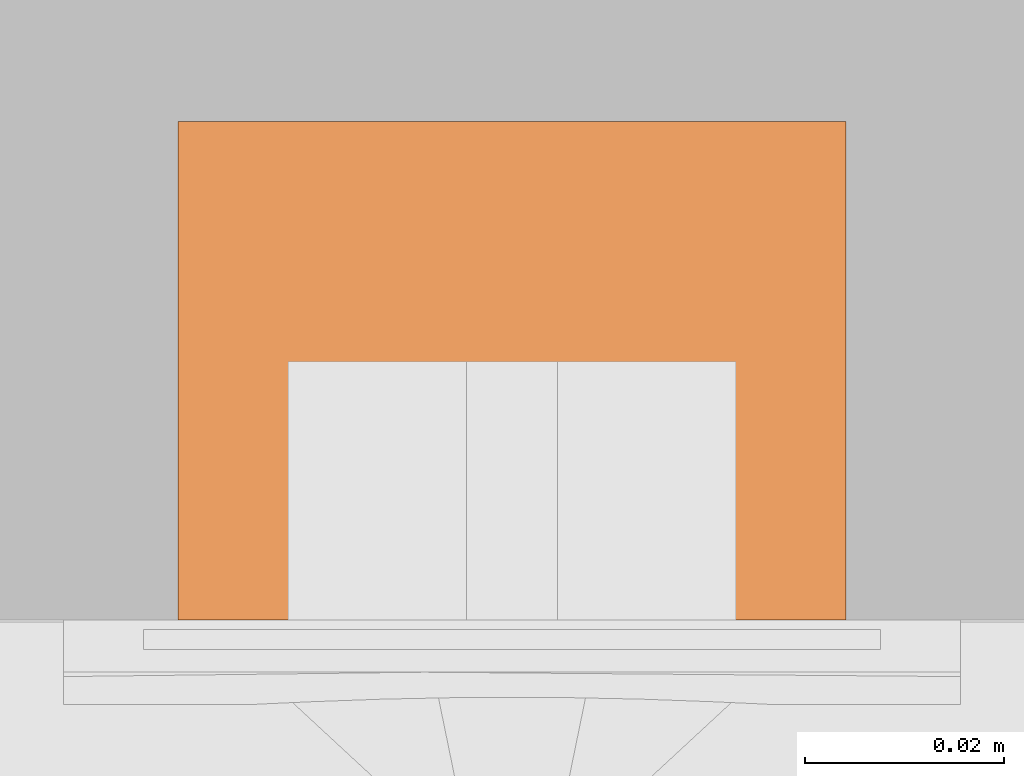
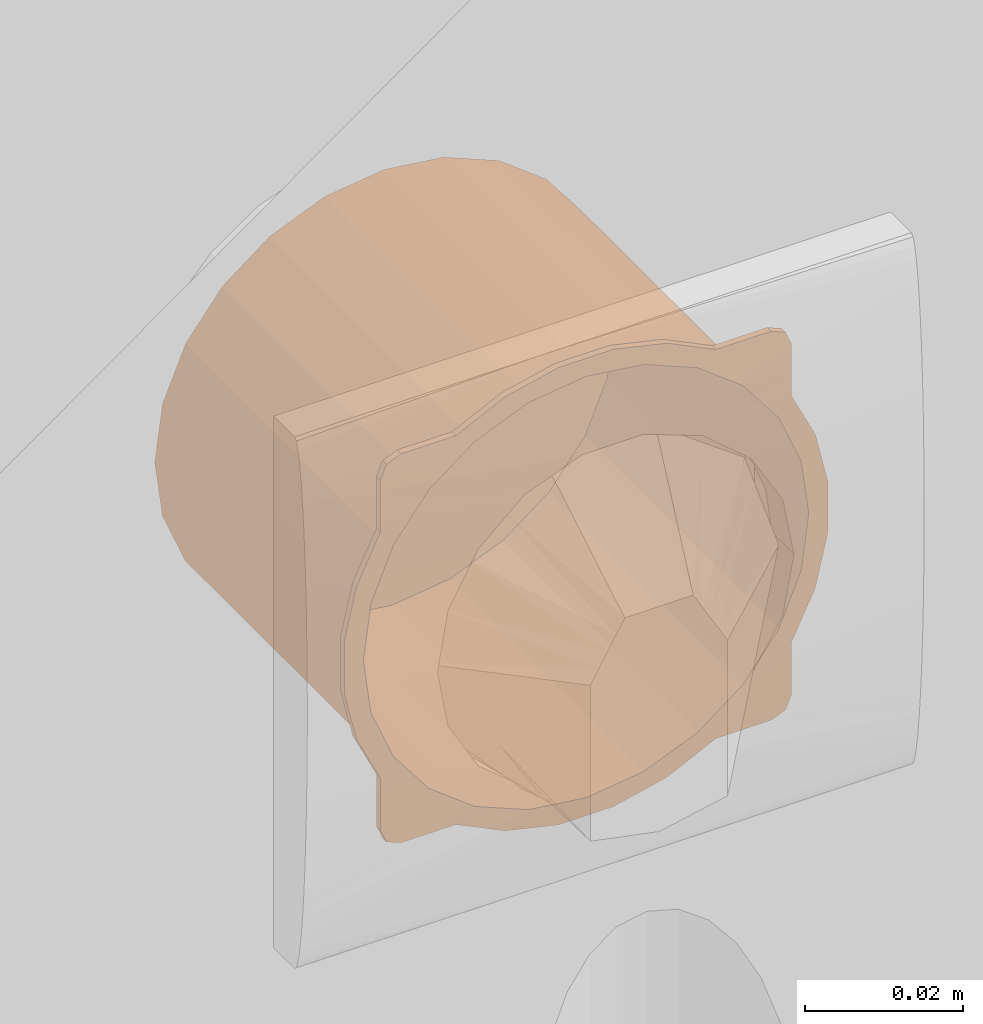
# One storey, part 7 of 8: 1 proxy.
"""IFC2X3 building model written with IfcOpenShell, lengths in metres."""

from ifc_helpers import new_model, entity, si_unit, converted_unit, derived_unit, direction, frame, origin, place, context, subcontext, project, spatial, faceted_brep, source, transform, mapped, material, type_object, type_shapes, element, save


model = new_model("IFC2X3")

# Units and contexts
model_context = context("Model", 3, precision=1e-05, world=origin(), true_north=direction((6.123031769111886e-17, 1.0)))
body_context = subcontext(model_context, "Body", "Model", "MODEL_VIEW")
ifc_project = project(units=[si_unit("LENGTHUNIT", "METRE"), si_unit("AREAUNIT", "SQUARE_METRE"), si_unit("VOLUMEUNIT", "CUBIC_METRE"), converted_unit("PLANEANGLEUNIT", "DEGREE", entity("IfcPlaneAngleMeasure", 0.017453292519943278), si_unit("PLANEANGLEUNIT", "RADIAN"), dimensions=[0, 0, 0, 0, 0, 0, 0]), si_unit("MASSUNIT", "GRAM", prefix="KILO"), derived_unit("MASSDENSITYUNIT", [(si_unit("MASSUNIT", "GRAM", prefix="KILO"), 1), (si_unit("LENGTHUNIT", "METRE"), -3)]), derived_unit("IONCONCENTRATIONUNIT", [(si_unit("MASSUNIT", "GRAM", prefix="KILO"), 1), (si_unit("LENGTHUNIT", "METRE"), -3)]), derived_unit("MOMENTOFINERTIAUNIT", [(si_unit("LENGTHUNIT", "METRE"), 4)]), si_unit("TIMEUNIT", "SECOND"), si_unit("FREQUENCYUNIT", "HERTZ"), si_unit("THERMODYNAMICTEMPERATUREUNIT", "DEGREE_CELSIUS"), derived_unit("THERMALTRANSMITTANCEUNIT", [(si_unit("MASSUNIT", "GRAM", prefix="KILO"), 1), (si_unit("THERMODYNAMICTEMPERATUREUNIT", "KELVIN"), -1), (si_unit("TIMEUNIT", "SECOND"), -3)]), derived_unit("THERMALCONDUCTANCEUNIT", [(si_unit("MASSUNIT", "GRAM", prefix="KILO"), 1), (si_unit("THERMODYNAMICTEMPERATUREUNIT", "KELVIN"), -1), (si_unit("TIMEUNIT", "SECOND"), -3), (si_unit("LENGTHUNIT", "METRE"), 1)]), derived_unit("VOLUMETRICFLOWRATEUNIT", [(si_unit("LENGTHUNIT", "METRE", prefix="DECI"), 3), (si_unit("TIMEUNIT", "SECOND"), -1)]), derived_unit("MASSFLOWRATEUNIT", [(si_unit("MASSUNIT", "GRAM", prefix="KILO"), 1), (si_unit("TIMEUNIT", "SECOND"), -1)]), derived_unit("ROTATIONALFREQUENCYUNIT", [(si_unit("TIMEUNIT", "SECOND"), -1)]), si_unit("ELECTRICCURRENTUNIT", "AMPERE"), si_unit("ELECTRICVOLTAGEUNIT", "VOLT"), si_unit("POWERUNIT", "WATT"), si_unit("FORCEUNIT", "NEWTON", prefix="KILO"), si_unit("ILLUMINANCEUNIT", "LUX"), si_unit("LUMINOUSFLUXUNIT", "LUMEN"), si_unit("LUMINOUSINTENSITYUNIT", "CANDELA"), si_unit("ENERGYUNIT", "JOULE"), derived_unit("USERDEFINED", [(si_unit("MASSUNIT", "GRAM", prefix="KILO"), -1), (si_unit("LENGTHUNIT", "METRE"), -2), (si_unit("TIMEUNIT", "SECOND"), 3), (si_unit("LUMINOUSFLUXUNIT", "LUMEN"), 1)]), derived_unit("USERDEFINED", [(si_unit("MASSUNIT", "GRAM", prefix="KILO"), 1), (si_unit("TIMEUNIT", "SECOND"), -3), (si_unit("LENGTHUNIT", "METRE"), 3), (si_unit("ELECTRICCURRENTUNIT", "AMPERE"), -2)]), derived_unit("SOUNDPOWERUNIT", [(si_unit("MASSUNIT", "GRAM", prefix="KILO"), 1), (si_unit("TIMEUNIT", "SECOND"), -3), (si_unit("LENGTHUNIT", "METRE"), 2)]), derived_unit("SOUNDPRESSUREUNIT", [(si_unit("MASSUNIT", "GRAM", prefix="KILO"), 1), (si_unit("LENGTHUNIT", "METRE"), -1), (si_unit("TIMEUNIT", "SECOND"), -2)]), derived_unit("LINEARVELOCITYUNIT", [(si_unit("LENGTHUNIT", "METRE"), 1), (si_unit("TIMEUNIT", "SECOND"), -1)]), si_unit("PRESSUREUNIT", "PASCAL"), derived_unit("USERDEFINED", [(si_unit("MASSUNIT", "GRAM", prefix="KILO"), 1), (si_unit("LENGTHUNIT", "METRE"), -2), (si_unit("TIMEUNIT", "SECOND"), -2)]), derived_unit("LINEARFORCEUNIT", [(si_unit("MASSUNIT", "GRAM", prefix="KILO"), 1), (si_unit("TIMEUNIT", "SECOND"), -2)]), derived_unit("PLANARFORCEUNIT", [(si_unit("MASSUNIT", "GRAM", prefix="KILO"), 1), (si_unit("LENGTHUNIT", "METRE"), -1), (si_unit("TIMEUNIT", "SECOND"), -2)]), derived_unit("SPECIFICHEATCAPACITYUNIT", [(si_unit("THERMODYNAMICTEMPERATUREUNIT", "KELVIN"), -1), (si_unit("LENGTHUNIT", "METRE"), 2), (si_unit("TIMEUNIT", "SECOND"), -2)]), derived_unit("HEATFLUXDENSITYUNIT", [(si_unit("MASSUNIT", "GRAM", prefix="KILO"), 1), (si_unit("TIMEUNIT", "SECOND"), -3)]), derived_unit("HEATINGVALUEUNIT", [(si_unit("LENGTHUNIT", "METRE"), 2), (si_unit("TIMEUNIT", "SECOND"), -2)]), derived_unit("VAPORPERMEABILITYUNIT", [(si_unit("LENGTHUNIT", "METRE"), -1), (si_unit("TIMEUNIT", "SECOND"), 1)]), derived_unit("DYNAMICVISCOSITYUNIT", [(si_unit("MASSUNIT", "GRAM", prefix="KILO"), 1), (si_unit("TIMEUNIT", "SECOND"), -1), (si_unit("LENGTHUNIT", "METRE"), -1)]), derived_unit("THERMALEXPANSIONCOEFFICIENTUNIT", [(si_unit("THERMODYNAMICTEMPERATUREUNIT", "KELVIN"), -1)]), derived_unit("MODULUSOFELASTICITYUNIT", [(si_unit("MASSUNIT", "GRAM", prefix="KILO"), 1), (si_unit("LENGTHUNIT", "METRE"), -1), (si_unit("TIMEUNIT", "SECOND"), -2)]), derived_unit("ISOTHERMALMOISTURECAPACITYUNIT", [(si_unit("MASSUNIT", "GRAM", prefix="KILO"), -1), (si_unit("LENGTHUNIT", "METRE"), 3)]), derived_unit("MOISTUREDIFFUSIVITYUNIT", [(si_unit("TIMEUNIT", "SECOND"), -1), (si_unit("LENGTHUNIT", "METRE"), 2)]), derived_unit("MASSPERLENGTHUNIT", [(si_unit("MASSUNIT", "GRAM", prefix="KILO"), 1), (si_unit("LENGTHUNIT", "METRE"), -1)]), derived_unit("THERMALRESISTANCEUNIT", [(si_unit("MASSUNIT", "GRAM", prefix="KILO"), -1), (si_unit("TIMEUNIT", "SECOND"), 3), (si_unit("THERMODYNAMICTEMPERATUREUNIT", "KELVIN"), 1)]), derived_unit("ACCELERATIONUNIT", [(si_unit("LENGTHUNIT", "METRE"), 1), (si_unit("TIMEUNIT", "SECOND"), -2)]), derived_unit("ANGULARVELOCITYUNIT", [(si_unit("TIMEUNIT", "SECOND"), -1), (si_unit("PLANEANGLEUNIT", "RADIAN"), 1)]), derived_unit("LINEARSTIFFNESSUNIT", [(si_unit("MASSUNIT", "GRAM", prefix="KILO"), 1), (si_unit("TIMEUNIT", "SECOND"), -2)]), derived_unit("WARPINGCONSTANTUNIT", [(si_unit("LENGTHUNIT", "METRE"), 6)]), derived_unit("LINEARMOMENTUNIT", [(si_unit("MASSUNIT", "GRAM", prefix="KILO"), 1), (si_unit("LENGTHUNIT", "METRE"), 1), (si_unit("TIMEUNIT", "SECOND"), -2)]), derived_unit("TORQUEUNIT", [(si_unit("MASSUNIT", "GRAM", prefix="KILO"), 1), (si_unit("LENGTHUNIT", "METRE"), 2), (si_unit("TIMEUNIT", "SECOND"), -2)])], contexts=[model_context])

# Site, building, storey
site_placement = place(None, origin())
site = spatial("IfcSite", under=ifc_project, at=site_placement, Name="Default", CompositionType="ELEMENT")
building_placement = place(site_placement, origin())
building = spatial("IfcBuilding", under=site, at=building_placement, CompositionType="ELEMENT")
storey_placement = place(building_placement, origin())
storey = spatial("IfcBuildingStorey", under=building, at=storey_placement, Name="Niveau 0", CompositionType="ELEMENT", Elevation=-1.949160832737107e-14)

# Proxy
ifc_material = material(Name="Plastique orange")
building_element_proxy_type = type_object("IfcBuildingElementProxyType", Name="Legrand Boite encastrement batibox 1 poste1:1 poste", PredefinedType="NOTDEFINED", material=ifc_material)
shared_shape = source(origin(), body_context, "Body", "Brep", [
    faceted_brep([(0.141749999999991, 0.1005, -1.7942243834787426), (0.1439802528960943, 0.1005, -1.7952125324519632), (0.1486880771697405, 0.1005, -1.7889006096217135), (0.1403837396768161, 0.1005, -1.796955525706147), (0.13678722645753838, 0.1005, -1.7986985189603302), (0.13367043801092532, 0.1005, -1.7975710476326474), (0.13289192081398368, 0.1005, -1.7995926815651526), (0.12899661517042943, 0.1005, -1.8004868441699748), (0.12499999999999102, 0.1005, -1.7987125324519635), (0.12499999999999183, 0.1005, -1.8004868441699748), (0.1210033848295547, 0.1005, -1.8004868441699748), (0.11632956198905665, 0.1005, -1.7975710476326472), (0.11710807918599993, 0.1005, -1.7995926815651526), (0.11321277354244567, 0.1005, -1.7986985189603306), (0.10824999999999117, 0.1005, -1.7942243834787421), (0.10893878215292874, 0.1005, -1.7966271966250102), (0.10601974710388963, 0.1005, -1.795212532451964), (0.10131192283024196, 0.1005, -1.7889006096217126), (0.09799999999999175, 0.1005, -1.7952125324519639), (0.09499999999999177, 0.1005, -1.792212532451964), (0.09499999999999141, 0.1005, -1.7841927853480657), (0.0959881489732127, 0.1005, -1.7819625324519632), (0.09325700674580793, 0.1005, -1.7805962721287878), (0.09151401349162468, 0.1005, -1.77699975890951), (0.09264148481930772, 0.1005, -1.7738829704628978), (0.09061985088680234, 0.1005, -1.7731044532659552), (0.08972568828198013, 0.1005, -1.769209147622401), (0.09149999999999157, 0.1005, -1.7652125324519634), (0.08972568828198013, 0.1005, -1.7652125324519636), (0.08972568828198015, 0.1005, -1.7612159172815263), (0.09264148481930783, 0.1005, -1.7565420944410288), (0.09061985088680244, 0.1005, -1.7573206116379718), (0.09151401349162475, 0.1005, -1.7534253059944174), (0.09598814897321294, 0.1005, -1.7484625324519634), (0.09358533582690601, 0.1005, -1.7491513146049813), (0.09499999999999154, 0.1005, -1.7462322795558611), (0.10131192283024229, 0.1005, -1.741524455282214), (0.0949999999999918, 0.1005, -1.7382125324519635), (0.0979999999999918, 0.1005, -1.7352125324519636), (0.10601974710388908, 0.1005, -1.7352125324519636), (0.10824999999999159, 0.1005, -1.7362006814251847), (0.10961626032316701, 0.1005, -1.7334695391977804), (0.11321277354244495, 0.1005, -1.731726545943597), (0.11632956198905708, 0.1005, -1.7328540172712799), (0.11710807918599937, 0.1005, -1.7308323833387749), (0.12100338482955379, 0.1005, -1.7299382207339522), (0.12499999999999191, 0.1005, -1.7317125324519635), (0.1249999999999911, 0.1005, -1.7299382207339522), (0.1289966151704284, 0.1005, -1.7299382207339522), (0.13367043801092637, 0.1005, -1.7328540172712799), (0.13289192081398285, 0.1005, -1.7308323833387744), (0.1367872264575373, 0.1005, -1.7317265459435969), (0.14174999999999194, 0.1005, -1.7362006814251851), (0.1410612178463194, 0.1005, -1.733797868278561), (0.14398025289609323, 0.1005, -1.7352125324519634), (0.14868807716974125, 0.1005, -1.7415244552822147), (0.15199999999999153, 0.1005, -1.7352125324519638), (0.1549999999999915, 0.1005, -1.738212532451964), (0.1549999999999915, 0.1005, -1.7462322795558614), (0.15401185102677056, 0.1005, -1.7484625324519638), (0.15674299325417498, 0.1005, -1.7498287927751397), (0.1584859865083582, 0.1005, -1.7534253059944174), (0.15735851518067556, 0.1005, -1.7565420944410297), (0.15938014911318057, 0.1005, -1.757320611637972), (0.16027431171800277, 0.1005, -1.7612159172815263), (0.15849999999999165, 0.1005, -1.765212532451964), (0.16027431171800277, 0.1005, -1.7652125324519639), (0.16027431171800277, 0.1005, -1.769209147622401), (0.15735851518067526, 0.1005, -1.7738829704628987), (0.15938014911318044, 0.1005, -1.7731044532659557), (0.1584859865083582, 0.1005, -1.77699975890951), (0.15401185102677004, 0.1005, -1.7819625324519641), (0.1549999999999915, 0.1005, -1.7841927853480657), (0.15641466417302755, 0.1005, -1.7812737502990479), (0.15412132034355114, 0.1005, -1.7360912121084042), (0.09587867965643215, 0.1005, -1.736091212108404), (0.09587867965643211, 0.1005, -1.7943338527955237), (0.15199999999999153, 0.1005, -1.7952125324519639), (0.15499999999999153, 0.1005, -1.7922125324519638), (0.1541213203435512, 0.1005, -1.7943338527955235), (0.1439802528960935, 0.1015, -1.7352125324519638), (0.14798097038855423, 0.1015, -1.7422315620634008), (0.14461548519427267, 0.1015, -1.739649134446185), (0.15199999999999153, 0.1015, -1.7352125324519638), (0.14124999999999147, 0.1015, -1.7370667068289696), (0.14038373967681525, 0.1015, -1.7334695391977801), (0.1549999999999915, 0.1015, -1.738212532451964), (0.15412132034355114, 0.1015, -1.7360912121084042), (0.1549999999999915, 0.1015, -1.7462322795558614), (0.15056339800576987, 0.1015, -1.745597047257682), (0.15314582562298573, 0.1015, -1.7489625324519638), (0.1564146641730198, 0.1015, -1.7491513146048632), (0.1584859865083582, 0.1015, -1.7534253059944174), (0.1547692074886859, 0.1015, -1.7528817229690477), (0.15639258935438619, 0.1015, -1.7568009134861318), (0.15938014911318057, 0.1015, -1.757320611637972), (0.16027431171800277, 0.1015, -1.7612159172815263), (0.1569462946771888, 0.1015, -1.7610067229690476), (0.15749999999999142, 0.1015, -1.7652125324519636), (0.16027431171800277, 0.1015, -1.7652125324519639), (0.16027431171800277, 0.1015, -1.769209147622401), (0.15694629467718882, 0.1015, -1.7694183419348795), (0.15639258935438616, 0.1015, -1.7736241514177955), (0.15938014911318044, 0.1015, -1.7731044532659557), (0.1584859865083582, 0.1015, -1.77699975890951), (0.15476920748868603, 0.1015, -1.7775433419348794), (0.15314582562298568, 0.1015, -1.7814625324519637), (0.1567429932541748, 0.1015, -1.780596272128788), (0.15499999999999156, 0.1015, -1.7841927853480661), (0.1505633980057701, 0.1015, -1.7848280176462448), (0.14798097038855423, 0.1015, -1.7881935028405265), (0.15499999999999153, 0.1015, -1.7922125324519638), (0.15199999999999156, 0.1015, -1.7952125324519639), (0.1541213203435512, 0.1015, -1.7943338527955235), (0.1439802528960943, 0.1015, -1.7952125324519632), (0.144615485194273, 0.1015, -1.7907759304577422), (0.14124999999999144, 0.1015, -1.793358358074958), (0.1410612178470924, 0.1015, -1.7966271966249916), (0.13678722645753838, 0.1015, -1.7986985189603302), (0.13733080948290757, 0.1015, -1.794981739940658), (0.13341161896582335, 0.1015, -1.7966051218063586), (0.13289192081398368, 0.1015, -1.7995926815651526), (0.12899661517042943, 0.1015, -1.8004868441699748), (0.1292058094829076, 0.1015, -1.7971588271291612), (0.12499999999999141, 0.1015, -1.7977125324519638), (0.12499999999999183, 0.1015, -1.8004868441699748), (0.1210033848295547, 0.1015, -1.8004868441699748), (0.12192512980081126, 0.1015, -1.7973077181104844), (0.11658838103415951, 0.1015, -1.7966051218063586), (0.11710807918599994, 0.1015, -1.7995926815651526), (0.11321277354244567, 0.1015, -1.7986985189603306), (0.11266919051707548, 0.1015, -1.794981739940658), (0.10874999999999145, 0.1015, -1.793358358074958), (0.10961626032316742, 0.1015, -1.7969555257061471), (0.10601974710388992, 0.1015, -1.795212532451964), (0.10538451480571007, 0.1015, -1.7907759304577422), (0.10201902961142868, 0.1015, -1.7881935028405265), (0.09799999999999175, 0.1015, -1.7952125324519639), (0.09499999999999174, 0.1015, -1.792212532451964), (0.09587867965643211, 0.1015, -1.7943338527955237), (0.09499999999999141, 0.1015, -1.7841927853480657), (0.09943660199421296, 0.1015, -1.7848280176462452), (0.09685417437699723, 0.1015, -1.7814625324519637), (0.09358533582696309, 0.1015, -1.7812737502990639), (0.09151401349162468, 0.1015, -1.77699975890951), (0.09523079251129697, 0.1015, -1.7775433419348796), (0.09360741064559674, 0.1015, -1.7736241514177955), (0.09061985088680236, 0.1015, -1.7731044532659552), (0.08972568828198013, 0.1015, -1.769209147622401), (0.0930537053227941, 0.1015, -1.76941834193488), (0.09249999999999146, 0.1015, -1.7652125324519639), (0.08972568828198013, 0.1015, -1.7652125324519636), (0.08972568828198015, 0.1015, -1.7612159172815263), (0.09305370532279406, 0.1015, -1.7610067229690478), (0.09360741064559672, 0.1015, -1.7568009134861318), (0.09061985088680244, 0.1015, -1.7573206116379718), (0.09151401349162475, 0.1015, -1.7534253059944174), (0.09523079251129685, 0.1015, -1.7528817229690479), (0.09685417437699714, 0.1015, -1.7489625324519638), (0.09325700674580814, 0.1015, -1.7498287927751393), (0.0949999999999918, 0.1015, -1.7462322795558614), (0.09943660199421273, 0.1015, -1.7455970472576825), (0.10201902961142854, 0.1015, -1.7422315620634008), (0.0949999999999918, 0.1015, -1.7382125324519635), (0.0979999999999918, 0.1015, -1.7352125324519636), (0.09587867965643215, 0.1015, -1.736091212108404), (0.10601974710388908, 0.1015, -1.7352125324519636), (0.10538451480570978, 0.1015, -1.7396491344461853), (0.10874999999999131, 0.1015, -1.7370667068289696), (0.10893878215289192, 0.1015, -1.733797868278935), (0.11321277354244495, 0.1015, -1.731726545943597), (0.11266919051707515, 0.1015, -1.7354433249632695), (0.11658838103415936, 0.1015, -1.733819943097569), (0.11710807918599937, 0.1015, -1.7308323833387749), (0.12100338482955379, 0.1015, -1.7299382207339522), (0.12079419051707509, 0.1015, -1.7332662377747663), (0.12499999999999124, 0.1015, -1.7327125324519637), (0.1249999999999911, 0.1015, -1.7299382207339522), (0.1289966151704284, 0.1015, -1.7299382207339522), (0.1280748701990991, 0.1015, -1.7331173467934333), (0.13341161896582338, 0.1015, -1.733819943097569), (0.13289192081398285, 0.1015, -1.7308323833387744), (0.1367872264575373, 0.1015, -1.7317265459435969), (0.13733080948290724, 0.1015, -1.735443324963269), (0.11658838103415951, 0.1005, -1.7966051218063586), (0.12079419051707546, 0.1005, -1.7971588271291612), (0.11658838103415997, 0.05250000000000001, -1.7966051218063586), (0.12499999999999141, 0.1005, -1.7977125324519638), (0.12499999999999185, 0.05250000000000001, -1.7977125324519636), (0.11658838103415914, 0.1005, -1.733819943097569), (0.12079419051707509, 0.1005, -1.7332662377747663), (0.11658838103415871, 0.05250000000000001, -1.733819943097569), (0.12499999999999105, 0.1005, -1.7327125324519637), (0.1249999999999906, 0.05250000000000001, -1.7327125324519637), (0.11266919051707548, 0.1005, -1.794981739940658), (0.10874999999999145, 0.1005, -1.793358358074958), (0.10874999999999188, 0.05250000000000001, -1.793358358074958), (0.10201902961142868, 0.1005, -1.7881935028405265), (0.09943660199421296, 0.1005, -1.7848280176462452), (0.09685417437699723, 0.1005, -1.7814625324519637), (0.10201902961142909, 0.05250000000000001, -1.7881935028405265), (0.09685417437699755, 0.05250000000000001, -1.781462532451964), (0.11266919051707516, 0.10050000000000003, -1.7354433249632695), (0.10874999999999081, 0.05250000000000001, -1.7370667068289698), (0.10874999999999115, 0.1005, -1.7370667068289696), (0.10538451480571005, 0.1005, -1.7907759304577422), (0.09523079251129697, 0.1005, -1.7775433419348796), (0.09360741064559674, 0.1005, -1.7736241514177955), (0.093607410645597, 0.05250000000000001, -1.773624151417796), (0.09249999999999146, 0.1005, -1.7652125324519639), (0.0930537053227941, 0.1005, -1.76941834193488), (0.09249999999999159, 0.05250000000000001, -1.765212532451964), (0.09305370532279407, 0.10050000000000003, -1.7610067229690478), (0.09360741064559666, 0.1005, -1.756800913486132), (0.09360741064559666, 0.05250000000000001, -1.7568009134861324), (0.09943660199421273, 0.10050000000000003, -1.7455970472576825), (0.09685417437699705, 0.1005, -1.748962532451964), (0.10201902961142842, 0.1005, -1.7422315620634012), (0.09685417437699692, 0.05250000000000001, -1.7489625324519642), (0.10201902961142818, 0.05250000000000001, -1.7422315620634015), (0.10538451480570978, 0.1005, -1.7396491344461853), (0.09523079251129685, 0.1005, -1.7528817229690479), (0.13341161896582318, 0.1005, -1.733819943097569), (0.12920580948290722, 0.1005, -1.7332662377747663), (0.13341161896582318, 0.05250000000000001, -1.7338199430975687), (0.13341161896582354, 0.1005, -1.7966051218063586), (0.12920580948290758, 0.10050000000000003, -1.7971588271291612), (0.13341161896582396, 0.05250000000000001, -1.7966051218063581), (0.1373308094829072, 0.1005, -1.735443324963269), (0.14124999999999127, 0.1005, -1.7370667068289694), (0.1412499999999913, 0.05250000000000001, -1.737066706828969), (0.1479809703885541, 0.1005, -1.7422315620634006), (0.15056339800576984, 0.1005, -1.745597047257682), (0.15314582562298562, 0.1005, -1.7489625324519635), (0.14798097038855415, 0.05250000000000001, -1.7422315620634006), (0.15314582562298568, 0.05250000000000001, -1.7489625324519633), (0.13733080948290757, 0.1005, -1.794981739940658), (0.141249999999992, 0.05250000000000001, -1.7933583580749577), (0.14124999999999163, 0.1005, -1.7933583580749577), (0.1446154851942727, 0.10050000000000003, -1.739649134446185), (0.1547692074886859, 0.10050000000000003, -1.7528817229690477), (0.15639258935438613, 0.1005, -1.7568009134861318), (0.15639258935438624, 0.05250000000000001, -1.756800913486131), (0.15749999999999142, 0.1005, -1.7652125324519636), (0.1569462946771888, 0.10050000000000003, -1.7610067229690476), (0.15749999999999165, 0.05250000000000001, -1.765212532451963), (0.15694629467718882, 0.1005, -1.7694183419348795), (0.1563925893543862, 0.1005, -1.7736241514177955), (0.15639258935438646, 0.05250000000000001, -1.7736241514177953), (0.1505633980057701, 0.10050000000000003, -1.7848280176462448), (0.15314582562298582, 0.1005, -1.7814625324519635), (0.1479809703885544, 0.1005, -1.7881935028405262), (0.1531458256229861, 0.05250000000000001, -1.781462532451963), (0.14798097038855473, 0.05250000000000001, -1.788193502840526), (0.14461548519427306, 0.1005, -1.7907759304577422), (0.15476920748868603, 0.1005, -1.7775433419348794), (0.14174999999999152, 0.05050000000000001, -1.7942243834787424), (0.1486880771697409, 0.05050000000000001, -1.7889006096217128), (0.15401185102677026, 0.05050000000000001, -1.7819625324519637), (0.1573585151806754, 0.05050000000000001, -1.7738829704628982), (0.15849999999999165, 0.05050000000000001, -1.7652125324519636), (0.15735851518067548, 0.05050000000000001, -1.7565420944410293), (0.1540118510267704, 0.05050000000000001, -1.7484625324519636), (0.14868807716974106, 0.05050000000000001, -1.7415244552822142), (0.14174999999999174, 0.05050000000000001, -1.7362006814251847), (0.1336704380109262, 0.05050000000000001, -1.7328540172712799), (0.1249999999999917, 0.05050000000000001, -1.7317125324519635), (0.11632956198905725, 0.05050000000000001, -1.7328540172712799), (0.1082499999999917, 0.05050000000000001, -1.7362006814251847), (0.10131192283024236, 0.05050000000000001, -1.741524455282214), (0.09598814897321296, 0.05050000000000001, -1.7484625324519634), (0.09264148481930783, 0.05050000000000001, -1.7565420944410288), (0.09149999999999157, 0.05050000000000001, -1.7652125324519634), (0.09264148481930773, 0.05050000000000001, -1.7738829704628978), (0.09598814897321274, 0.05050000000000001, -1.7819625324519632), (0.10131192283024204, 0.05050000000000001, -1.7889006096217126), (0.10824999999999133, 0.05050000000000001, -1.7942243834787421), (0.11632956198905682, 0.05050000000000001, -1.7975710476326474), (0.12499999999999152, 0.05050000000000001, -1.7987125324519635), (0.13367043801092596, 0.05050000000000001, -1.7975710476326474), (0.12499999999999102, 0.05250000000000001, -1.7987125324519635), (0.12499999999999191, 0.05250000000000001, -1.7317125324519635)], [[[0, 1, 2]], [[0, 3, 1]], [[0, 4, 3]], [[0, 5, 4]], [[5, 6, 4]], [[5, 7, 6]], [[8, 7, 5]], [[8, 9, 7]], [[8, 10, 9]], [[10, 8, 11]], [[11, 12, 10]], [[11, 13, 12]], [[14, 13, 11]], [[14, 15, 13]], [[14, 16, 15]], [[17, 16, 14]], [[17, 18, 16]], [[18, 17, 19]], [[19, 17, 20]], [[21, 20, 17]], [[21, 22, 20]], [[21, 23, 22]], [[21, 24, 23]], [[24, 25, 23]], [[24, 26, 25]], [[24, 27, 26]], [[27, 28, 26]], [[27, 29, 28]], [[29, 27, 30]], [[30, 31, 29]], [[30, 32, 31]], [[32, 30, 33]], [[33, 34, 32]], [[33, 35, 34]], [[33, 36, 35]], [[35, 36, 37]], [[38, 37, 36]], [[39, 38, 36]], [[39, 36, 40]], [[40, 41, 39]], [[40, 42, 41]], [[40, 43, 42]], [[43, 44, 42]], [[43, 45, 44]], [[46, 45, 43]], [[46, 47, 45]], [[46, 48, 47]], [[48, 46, 49]], [[49, 50, 48]], [[49, 51, 50]], [[51, 49, 52]], [[52, 53, 51]], [[52, 54, 53]], [[54, 52, 55]], [[56, 54, 55]], [[55, 57, 56]], [[57, 55, 58]], [[59, 58, 55]], [[59, 60, 58]], [[59, 61, 60]], [[62, 61, 59]], [[62, 63, 61]], [[62, 64, 63]], [[62, 65, 64]], [[65, 66, 64]], [[65, 67, 66]], [[67, 65, 68]], [[68, 69, 67]], [[68, 70, 69]], [[70, 68, 71]], [[72, 71, 2]], [[71, 72, 73]], [[71, 73, 70]], [[56, 57, 74]], [[75, 37, 38]], [[18, 19, 76]], [[77, 2, 1]], [[78, 2, 77]], [[77, 79, 78]], [[2, 78, 72]], [[80, 81, 82]], [[83, 81, 80]], [[80, 82, 84]], [[84, 85, 80]], [[86, 81, 83]], [[83, 87, 86]], [[81, 86, 88]], [[88, 89, 81]], [[88, 90, 89]], [[90, 88, 91]], [[90, 91, 92]], [[92, 93, 90]], [[92, 94, 93]], [[94, 92, 95]], [[94, 95, 96]], [[96, 97, 94]], [[96, 98, 97]], [[98, 96, 99]], [[98, 99, 100]], [[100, 101, 98]], [[100, 102, 101]], [[102, 100, 103]], [[102, 103, 104]], [[104, 105, 102]], [[104, 106, 105]], [[106, 104, 107]], [[106, 107, 108]], [[108, 109, 106]], [[108, 110, 109]], [[111, 110, 108]], [[110, 111, 112]], [[112, 111, 113]], [[112, 114, 110]], [[114, 115, 110]], [[114, 116, 115]], [[116, 114, 117]], [[116, 117, 118]], [[118, 119, 116]], [[118, 120, 119]], [[120, 118, 121]], [[120, 121, 122]], [[122, 123, 120]], [[122, 124, 123]], [[124, 122, 125]], [[124, 125, 126]], [[126, 127, 124]], [[126, 128, 127]], [[128, 126, 129]], [[128, 129, 130]], [[130, 131, 128]], [[130, 132, 131]], [[132, 130, 133]], [[132, 133, 134]], [[134, 135, 132]], [[134, 136, 135]], [[134, 137, 136]], [[137, 138, 136]], [[139, 138, 137]], [[140, 136, 138]], [[140, 141, 136]], [[140, 142, 141]], [[142, 140, 143]], [[142, 143, 144]], [[144, 145, 142]], [[144, 146, 145]], [[146, 144, 147]], [[146, 147, 148]], [[148, 149, 146]], [[148, 150, 149]], [[150, 148, 151]], [[150, 151, 152]], [[152, 153, 150]], [[152, 154, 153]], [[154, 152, 155]], [[154, 155, 156]], [[156, 157, 154]], [[156, 158, 157]], [[158, 156, 159]], [[158, 159, 160]], [[160, 161, 158]], [[160, 162, 161]], [[163, 162, 160]], [[164, 162, 163]], [[164, 163, 165]], [[162, 164, 166]], [[166, 167, 162]], [[166, 168, 167]], [[168, 166, 169]], [[168, 169, 170]], [[170, 171, 168]], [[170, 172, 171]], [[172, 170, 173]], [[172, 173, 174]], [[174, 175, 172]], [[174, 176, 175]], [[176, 174, 177]], [[176, 177, 178]], [[178, 179, 176]], [[178, 180, 179]], [[180, 178, 181]], [[180, 181, 182]], [[182, 84, 183]], [[84, 182, 85]], [[182, 183, 180]], [[57, 58, 88, 86]], [[72, 78, 111, 108]], [[57, 86, 87, 74]], [[87, 83, 56, 74]], [[54, 56, 83, 80]], [[38, 39, 166, 164]], [[38, 164, 165, 75]], [[165, 163, 37, 75]], [[35, 37, 163, 160]], [[19, 20, 140, 138]], [[77, 1, 114, 112]], [[16, 18, 137, 134]], [[77, 112, 113, 79]], [[113, 111, 78, 79]], [[19, 138, 139, 76]], [[139, 137, 18, 76]], [[184, 185, 128]], [[186, 185, 184]], [[186, 187, 185]], [[186, 188, 187]], [[185, 187, 127]], [[124, 127, 187]], [[185, 127, 128]], [[189, 172, 175]], [[190, 189, 175]], [[191, 189, 190]], [[175, 176, 190]], [[192, 190, 176]], [[193, 191, 192]], [[191, 190, 192]], [[128, 131, 184]], [[194, 184, 131]], [[131, 132, 194]], [[132, 195, 194]], [[196, 194, 195]], [[196, 186, 184]], [[196, 184, 194]], [[136, 141, 197]], [[198, 197, 141]], [[141, 142, 198]], [[142, 199, 198]], [[200, 198, 199]], [[201, 200, 199]], [[200, 197, 198]], [[172, 189, 202]], [[171, 172, 202]], [[203, 202, 189]], [[191, 203, 189]], [[203, 204, 202]], [[202, 204, 171]], [[168, 171, 204]], [[132, 135, 195]], [[205, 195, 135]], [[135, 136, 205]], [[136, 197, 205]], [[196, 205, 197]], [[197, 200, 196]], [[196, 195, 205]], [[142, 145, 199]], [[206, 199, 145]], [[145, 146, 206]], [[146, 207, 206]], [[201, 206, 207]], [[208, 201, 207]], [[201, 199, 206]], [[209, 210, 150]], [[208, 210, 209]], [[209, 211, 208]], [[208, 207, 210]], [[210, 207, 149]], [[207, 146, 149]], [[149, 150, 210]], [[150, 153, 209]], [[212, 209, 153]], [[153, 154, 212]], [[154, 213, 212]], [[211, 212, 213]], [[211, 213, 214]], [[211, 209, 212]], [[215, 216, 161]], [[161, 162, 215]], [[162, 217, 215]], [[218, 216, 215]], [[218, 215, 217]], [[218, 217, 219]], [[158, 161, 216]], [[168, 204, 220]], [[167, 168, 220]], [[219, 220, 204]], [[204, 203, 219]], [[219, 217, 220]], [[162, 167, 217]], [[220, 217, 167]], [[154, 157, 213]], [[221, 213, 157]], [[157, 158, 221]], [[158, 216, 221]], [[214, 221, 216]], [[218, 214, 216]], [[214, 213, 221]], [[222, 223, 180]], [[193, 223, 222]], [[224, 193, 222]], [[193, 192, 223]], [[223, 192, 179]], [[176, 179, 192]], [[223, 179, 180]], [[225, 120, 123]], [[226, 225, 123]], [[227, 225, 226]], [[123, 124, 226]], [[187, 226, 124]], [[188, 227, 187]], [[227, 226, 187]], [[180, 183, 222]], [[228, 222, 183]], [[183, 84, 228]], [[84, 229, 228]], [[224, 228, 229]], [[224, 229, 230]], [[224, 222, 228]], [[81, 89, 231]], [[232, 231, 89]], [[89, 90, 232]], [[90, 233, 232]], [[234, 232, 233]], [[235, 234, 233]], [[234, 231, 232]], [[120, 225, 236]], [[119, 120, 236]], [[237, 236, 225]], [[227, 237, 225]], [[237, 238, 236]], [[236, 238, 119]], [[116, 119, 238]], [[84, 82, 229]], [[239, 229, 82]], [[82, 81, 239]], [[81, 231, 239]], [[230, 239, 231]], [[231, 234, 230]], [[230, 229, 239]], [[90, 93, 233]], [[240, 233, 93]], [[93, 94, 240]], [[94, 241, 240]], [[235, 240, 241]], [[242, 235, 241]], [[235, 233, 240]], [[243, 244, 98]], [[242, 244, 243]], [[243, 245, 242]], [[242, 241, 244]], [[244, 241, 97]], [[241, 94, 97]], [[97, 98, 244]], [[98, 101, 243]], [[246, 243, 101]], [[101, 102, 246]], [[102, 247, 246]], [[245, 246, 247]], [[245, 247, 248]], [[245, 243, 246]], [[249, 250, 109]], [[109, 110, 249]], [[110, 251, 249]], [[252, 250, 249]], [[252, 249, 251]], [[252, 251, 253]], [[106, 109, 250]], [[116, 238, 254]], [[115, 116, 254]], [[253, 254, 238]], [[238, 237, 253]], [[253, 251, 254]], [[110, 115, 251]], [[254, 251, 115]], [[102, 105, 247]], [[255, 247, 105]], [[105, 106, 255]], [[106, 250, 255]], [[248, 255, 250]], [[252, 248, 250]], [[248, 247, 255]], [[256, 257, 258, 259, 260, 261, 262, 263, 264, 265, 266, 267, 268, 269, 270, 271, 272, 273, 274, 275, 276, 277, 278, 279]], [[280, 8, 5, 279, 278]], [[0, 256, 279, 5]], [[71, 68, 259, 258]], [[257, 2, 71, 258]], [[256, 0, 2, 257]], [[259, 68, 65, 260]], [[59, 262, 261, 62]], [[55, 263, 262, 59]], [[49, 46, 281, 266, 265]], [[55, 52, 264, 263]], [[49, 265, 264, 52]], [[62, 261, 260, 65]], [[281, 46, 43, 267, 266]], [[268, 267, 43, 40]], [[270, 33, 30, 271]], [[269, 36, 33, 270]], [[30, 27, 272, 271]], [[40, 36, 269, 268]], [[21, 274, 273, 24]], [[17, 275, 274, 21]], [[11, 8, 280, 278, 277]], [[17, 14, 276, 275]], [[11, 277, 276, 14]], [[24, 273, 272, 27]], [[230, 234, 235, 242, 245, 248, 252, 253, 237, 227, 188, 186, 196, 200, 201, 208, 211, 214, 218, 219, 203, 191, 193, 224]], [[51, 53, 54, 80, 85, 182]], [[169, 166, 39, 41, 42, 170]], [[182, 181, 178, 48, 50, 51]], [[45, 47, 48, 178, 177, 174]], [[174, 173, 170, 42, 44, 45]], [[32, 34, 35, 160, 159, 156]], [[143, 140, 20, 22, 23, 144]], [[156, 155, 152, 29, 31, 32]], [[26, 28, 29, 152, 151, 148]], [[148, 147, 144, 23, 25, 26]], [[13, 15, 16, 134, 133, 130]], [[117, 114, 1, 3, 4, 118]], [[130, 129, 126, 10, 12, 13]], [[7, 9, 10, 126, 125, 122]], [[122, 121, 118, 4, 6, 7]], [[70, 73, 72, 108, 107, 104]], [[91, 88, 58, 60, 61, 92]], [[104, 103, 100, 67, 69, 70]], [[64, 66, 67, 100, 99, 96]], [[96, 95, 92, 61, 63, 64]]]),
])
type_shapes(building_element_proxy_type, [shared_shape])
proxy_placement = place(storey_placement, frame((-8.558577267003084, 2.950026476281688, 3.8156993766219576), z_axis=(0.0, 0.0, 1.0), x_axis=(-1.0, 0.0, 0.0)))
element("IfcBuildingElementProxy", 1, at=proxy_placement, inside=storey, type_object=building_element_proxy_type, material=ifc_material, Name="Legrand Boite encastrement batibox 1 poste1:1 poste", ObjectType="Legrand Boite encastrement batibox 1 poste1:1 poste", context=body_context, shape_type="MappedRepresentation", body=[
    mapped(shared_shape, transform((0.0, 0.0, 0.0), scale=1.0)),
])

save(model, "model.ifc")
